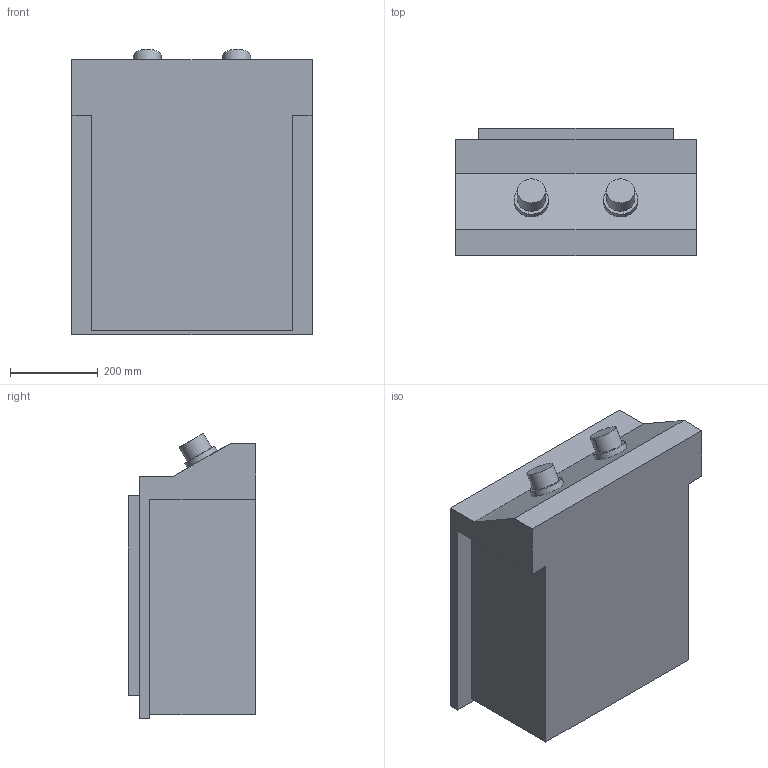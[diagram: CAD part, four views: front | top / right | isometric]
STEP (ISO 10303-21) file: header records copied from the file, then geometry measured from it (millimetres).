
FILE_DESCRIPTION (( 'STEP AP203' ), '1' );
FILE_NAME ('BIB18RT.STEP', '2020-04-24T15:51:38', ( '8DNKR52' ), ( 'Microsoft' ), 'SwSTEP 2.0', 'SolidWorks 2019', '' );
FILE_SCHEMA (( 'CONFIG_CONTROL_DESIGN' ));
Length unit declared in the file: inch
Products named in the file (1): BIB18RT
Bounding box: 546.1 x 289.48 x 648.99 mm (x, y, z)
Volume: 78191658.3 mm3; surface area: 1313721.7 mm2
Topology: 1 solids, 1 shells, 27 faces, 61 edges, 41 vertices
Faces by surface type: plane 23, cylinder 4
Full cylindrical faces by diameter (mm): 63.5 x2, 77.788 x2
Entity records: 801 total; most frequent: CARTESIAN_POINT 124, DIRECTION 120, ORIENTED_EDGE 112, EDGE_CURVE 56, LINE 48, VECTOR 48, VERTEX_POINT 40, AXIS2_PLACEMENT_3D 36
